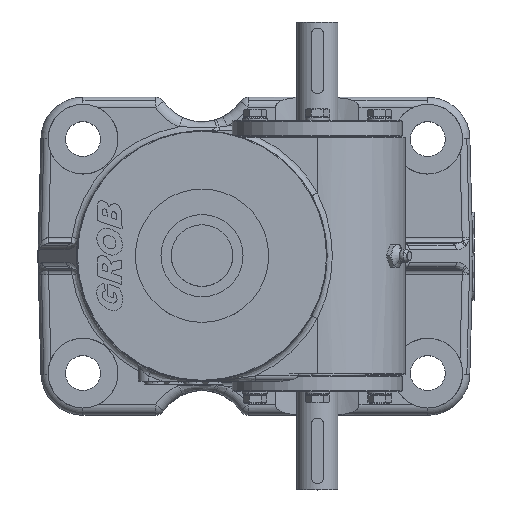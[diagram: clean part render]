
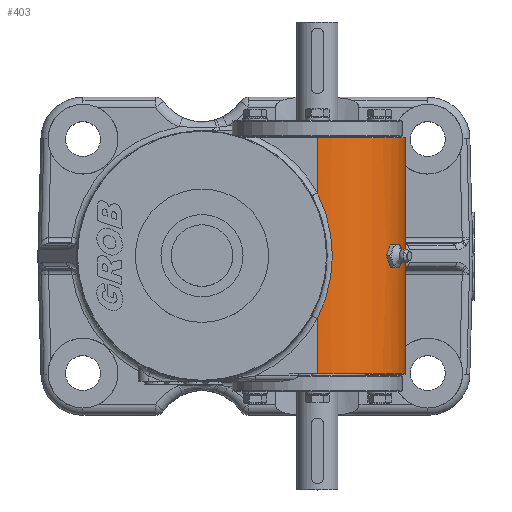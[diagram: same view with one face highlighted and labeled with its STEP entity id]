
A CAD part, top view. The second image highlights one B-rep face of the part: STEP entity #403.
In plain terms, the highlighted cylindrical face has radius 43 mm (diameter 86 mm), a partial arc.
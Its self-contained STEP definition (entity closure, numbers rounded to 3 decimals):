
#403=ADVANCED_FACE('',(#1507,#1508),#1509,.T.);
#1507=FACE_BOUND('',#3326,.T.);
#1508=FACE_OUTER_BOUND('',#3327,.T.);
#1509=CYLINDRICAL_SURFACE('',#3328,43.0);
#3326=EDGE_LOOP('',(#8139,#8140,#8141,#8142,#8143,#8144));
#3327=EDGE_LOOP('',(#8145,#8146,#8147,#8148,#8149,#8150,#8151,#8152,#8153,#8154,#8155,#8156));
#3328=AXIS2_PLACEMENT_3D('',#8157,#8158,#8159);
#8139=ORIENTED_EDGE('',*,*,#12429,.T.);
#8140=ORIENTED_EDGE('',*,*,#12425,.T.);
#8141=ORIENTED_EDGE('',*,*,#12421,.T.);
#8142=ORIENTED_EDGE('',*,*,#12446,.T.);
#8143=ORIENTED_EDGE('',*,*,#12442,.T.);
#8144=ORIENTED_EDGE('',*,*,#12445,.T.);
#8145=ORIENTED_EDGE('',*,*,#12486,.F.);
#8146=ORIENTED_EDGE('',*,*,#12487,.T.);
#8147=ORIENTED_EDGE('',*,*,#12474,.T.);
#8148=ORIENTED_EDGE('',*,*,#12488,.T.);
#8149=ORIENTED_EDGE('',*,*,#12489,.F.);
#8150=ORIENTED_EDGE('',*,*,#12490,.F.);
#8151=ORIENTED_EDGE('',*,*,#11635,.F.);
#8152=ORIENTED_EDGE('',*,*,#12491,.F.);
#8153=ORIENTED_EDGE('',*,*,#12492,.F.);
#8154=ORIENTED_EDGE('',*,*,#12493,.T.);
#8155=ORIENTED_EDGE('',*,*,#12481,.T.);
#8156=ORIENTED_EDGE('',*,*,#12494,.T.);
#8157=CARTESIAN_POINT('',(56.184,0.,61.5));
#8158=DIRECTION('',(0.,-1.0,0.));
#8159=DIRECTION('',(0.,0.,1.0));
#11635=EDGE_CURVE('',#13756,#13758,#13759,.T.);
#12421=EDGE_CURVE('',#15117,#15118,#15119,.T.);
#12425=EDGE_CURVE('',#15124,#15117,#15125,.T.);
#12429=EDGE_CURVE('',#15130,#15124,#15131,.T.);
#12442=EDGE_CURVE('',#15149,#15150,#15151,.T.);
#12445=EDGE_CURVE('',#15150,#15130,#15154,.T.);
#12446=EDGE_CURVE('',#15118,#15149,#15155,.T.);
#12474=EDGE_CURVE('',#15191,#15188,#15192,.T.);
#12481=EDGE_CURVE('',#15202,#15200,#15203,.T.);
#12486=EDGE_CURVE('',#15210,#15211,#15212,.T.);
#12487=EDGE_CURVE('',#15210,#15191,#15213,.T.);
#12488=EDGE_CURVE('',#15188,#15214,#15215,.T.);
#12489=EDGE_CURVE('',#15216,#15214,#15217,.T.);
#12490=EDGE_CURVE('',#13758,#15216,#15218,.T.);
#12491=EDGE_CURVE('',#15219,#13756,#15220,.T.);
#12492=EDGE_CURVE('',#15221,#15219,#15222,.T.);
#12493=EDGE_CURVE('',#15221,#15202,#15223,.T.);
#12494=EDGE_CURVE('',#15200,#15211,#15224,.T.);
#13756=VERTEX_POINT('',#17123);
#13758=VERTEX_POINT('',#17125);
#13759=LINE('',#17126,#17127);
#15117=VERTEX_POINT('',#19681);
#15118=VERTEX_POINT('',#19682);
#15119=CIRCLE('',#19683,43.0);
#15124=VERTEX_POINT('',#19699);
#15125=ELLIPSE('',#19700,86.,43.0);
#15130=VERTEX_POINT('',#19724);
#15131=ELLIPSE('',#19725,86.,43.0);
#15149=VERTEX_POINT('',#19807);
#15150=VERTEX_POINT('',#19808);
#15151=ELLIPSE('',#19809,86.,43.0);
#15154=CIRCLE('',#19814,43.0);
#15155=ELLIPSE('',#19815,86.,43.0);
#15188=VERTEX_POINT('',#19851);
#15191=VERTEX_POINT('',#19854);
#15192=CIRCLE('',#19855,43.0);
#15200=VERTEX_POINT('',#19877);
#15202=VERTEX_POINT('',#19880);
#15203=CIRCLE('',#19881,43.0);
#15210=VERTEX_POINT('',#19896);
#15211=VERTEX_POINT('',#19897);
#15212=B_SPLINE_CURVE_WITH_KNOTS('',3,(#19898,#19899,#19900,#19901,#19902,#19903,#19904,#19905,#19906,#19907),.UNSPECIFIED.,.F.,.F.,(4,1,1,1,1,1,1,4),(0.,0.909,1.818,2.727,3.636,4.546,5.,6.364),.UNSPECIFIED.);
#15213=LINE('',#19908,#19909);
#15214=VERTEX_POINT('',#19910);
#15215=LINE('',#19911,#19912);
#15216=VERTEX_POINT('',#19913);
#15217=CIRCLE('',#19914,43.0);
#15218=B_SPLINE_CURVE_WITH_KNOTS('',3,(#19915,#19916,#19917,#19918,#19919,#19920,#19921,#19922,#19923,#19924,#19925),.UNSPECIFIED.,.F.,.F.,(4,1,1,1,1,1,2,4),(-0.661,-0.529,-0.265,-0.198,-0.132,-0.066,0.0,0.001),.UNSPECIFIED.);
#15219=VERTEX_POINT('',#19926);
#15220=B_SPLINE_CURVE_WITH_KNOTS('',3,(#19927,#19928,#19929,#19930,#19931,#19932,#19933,#19934,#19935,#19936,#19937,#19938,#19939),.UNSPECIFIED.,.F.,.F.,(4,2,1,1,1,1,1,1,1,4),(-0.662,-0.661,-0.595,-0.529,-0.463,-0.397,-0.331,-0.265,-0.132,0.),.UNSPECIFIED.);
#15221=VERTEX_POINT('',#19940);
#15222=CIRCLE('',#19941,43.0);
#15223=LINE('',#19942,#19943);
#15224=LINE('',#19944,#19945);
#17123=CARTESIAN_POINT('',(97.865,3.835,50.932));
#17125=CARTESIAN_POINT('',(97.865,-3.835,50.932));
#17126=CARTESIAN_POINT('',(97.865,3.835,50.932));
#17127=VECTOR('',#22468,0.767);
#19681=CARTESIAN_POINT('',(91.734,5.5,85.691));
#19682=CARTESIAN_POINT('',(94.909,5.5,80.191));
#19683=AXIS2_PLACEMENT_3D('',#23923,#23924,#23925);
#19699=CARTESIAN_POINT('',(89.839,0.,88.264));
#19700=AXIS2_PLACEMENT_3D('',#23928,#23929,#23930);
#19724=CARTESIAN_POINT('',(91.734,-5.5,85.691));
#19725=AXIS2_PLACEMENT_3D('',#23932,#23933,#23934);
#19807=CARTESIAN_POINT('',(96.19,0.,77.264));
#19808=CARTESIAN_POINT('',(94.909,-5.5,80.191));
#19809=AXIS2_PLACEMENT_3D('',#23948,#23949,#23950);
#19814=AXIS2_PLACEMENT_3D('',#23953,#23954,#23955);
#19815=AXIS2_PLACEMENT_3D('',#23956,#23957,#23958);
#19851=CARTESIAN_POINT('',(81.864,-57.5,27.01));
#19854=CARTESIAN_POINT('',(56.184,-57.5,104.5));
#19855=AXIS2_PLACEMENT_3D('',#24034,#24035,#24036);
#19877=CARTESIAN_POINT('',(56.184,57.5,104.5));
#19880=CARTESIAN_POINT('',(81.864,57.5,27.01));
#19881=AXIS2_PLACEMENT_3D('',#24044,#24045,#24046);
#19896=CARTESIAN_POINT('',(56.184,-30.649,104.5));
#19897=CARTESIAN_POINT('',(56.184,30.649,104.5));
#19898=CARTESIAN_POINT('',(56.184,-30.649,104.5));
#19899=CARTESIAN_POINT('',(57.541,-27.989,104.5));
#19900=CARTESIAN_POINT('',(59.916,-22.432,104.372));
#19901=CARTESIAN_POINT('',(62.33,-13.603,104.071));
#19902=CARTESIAN_POINT('',(63.54,-4.595,103.866));
#19903=CARTESIAN_POINT('',(63.54,4.605,103.867));
#19904=CARTESIAN_POINT('',(62.526,12.124,104.038));
#19905=CARTESIAN_POINT('',(60.419,20.979,104.313));
#19906=CARTESIAN_POINT('',(58.219,26.658,104.5));
#19907=CARTESIAN_POINT('',(56.184,30.649,104.5));
#19908=CARTESIAN_POINT('',(56.184,-30.649,104.5));
#19909=VECTOR('',#24054,2.685);
#19910=CARTESIAN_POINT('',(81.864,-9.,27.01));
#19911=CARTESIAN_POINT('',(81.864,-57.5,27.01));
#19912=VECTOR('',#24055,4.85);
#19913=CARTESIAN_POINT('',(96.936,-9.,47.778));
#19914=AXIS2_PLACEMENT_3D('',#24056,#24057,#24058);
#19915=CARTESIAN_POINT('',(97.865,-3.835,50.932));
#19916=CARTESIAN_POINT('',(97.865,-4.276,50.932));
#19917=CARTESIAN_POINT('',(97.832,-5.61,50.8));
#19918=CARTESIAN_POINT('',(97.668,-7.048,50.167));
#19919=CARTESIAN_POINT('',(97.429,-8.014,49.336));
#19920=CARTESIAN_POINT('',(97.287,-8.435,48.864));
#19921=CARTESIAN_POINT('',(97.124,-8.776,48.347));
#19922=CARTESIAN_POINT('',(97.003,-8.937,47.977));
#19923=CARTESIAN_POINT('',(96.938,-8.998,47.784));
#19924=CARTESIAN_POINT('',(96.937,-8.999,47.781));
#19925=CARTESIAN_POINT('',(96.936,-9.,47.778));
#19926=CARTESIAN_POINT('',(96.936,9.,47.778));
#19927=CARTESIAN_POINT('',(96.936,9.,47.778));
#19928=CARTESIAN_POINT('',(96.937,8.999,47.781));
#19929=CARTESIAN_POINT('',(96.938,8.998,47.784));
#19930=CARTESIAN_POINT('',(97.003,8.937,47.977));
#19931=CARTESIAN_POINT('',(97.124,8.776,48.347));
#19932=CARTESIAN_POINT('',(97.286,8.436,48.864));
#19933=CARTESIAN_POINT('',(97.429,8.013,49.337));
#19934=CARTESIAN_POINT('',(97.548,7.532,49.75));
#19935=CARTESIAN_POINT('',(97.649,6.995,50.11));
#19936=CARTESIAN_POINT('',(97.756,6.218,50.508));
#19937=CARTESIAN_POINT('',(97.843,5.169,50.842));
#19938=CARTESIAN_POINT('',(97.865,4.276,50.932));
#19939=CARTESIAN_POINT('',(97.865,3.835,50.932));
#19940=CARTESIAN_POINT('',(81.864,9.,27.01));
#19941=AXIS2_PLACEMENT_3D('',#24059,#24060,#24061);
#19942=CARTESIAN_POINT('',(81.864,9.,27.01));
#19943=VECTOR('',#24062,4.85);
#19944=CARTESIAN_POINT('',(56.184,57.5,104.5));
#19945=VECTOR('',#24063,2.685);
#22468=DIRECTION('',(0.,-1.0,0.));
#23923=CARTESIAN_POINT('',(56.184,5.5,61.5));
#23924=DIRECTION('',(0.,1.0,0.));
#23925=DIRECTION('',(0.,0.,1.0));
#23928=CARTESIAN_POINT('',(56.184,11.,61.5));
#23929=DIRECTION('',(-0.433,0.5,0.75));
#23930=DIRECTION('',(-0.25,-0.866,0.433));
#23932=CARTESIAN_POINT('',(56.184,-11.0,61.5));
#23933=DIRECTION('',(-0.433,-0.5,0.75));
#23934=DIRECTION('',(-0.25,0.866,0.433));
#23948=CARTESIAN_POINT('',(56.184,-11.0,61.5));
#23949=DIRECTION('',(0.433,-0.5,-0.75));
#23950=DIRECTION('',(-0.25,-0.866,0.433));
#23953=CARTESIAN_POINT('',(56.184,-5.5,61.5));
#23954=DIRECTION('',(0.,-1.0,0.));
#23955=DIRECTION('',(0.,0.,1.0));
#23956=CARTESIAN_POINT('',(56.184,11.,61.5));
#23957=DIRECTION('',(0.433,0.5,-0.75));
#23958=DIRECTION('',(-0.25,0.866,0.433));
#24034=CARTESIAN_POINT('',(56.184,-57.5,61.5));
#24035=DIRECTION('',(0.,1.0,0.));
#24036=DIRECTION('',(0.,0.,1.0));
#24044=CARTESIAN_POINT('',(56.184,57.5,61.5));
#24045=DIRECTION('',(0.,-1.0,0.));
#24046=DIRECTION('',(0.,0.,1.0));
#24054=DIRECTION('',(0.,-1.0,0.));
#24055=DIRECTION('',(0.,1.0,0.));
#24056=CARTESIAN_POINT('',(56.184,-9.,61.5));
#24057=DIRECTION('',(0.,1.0,0.));
#24058=DIRECTION('',(0.822,0.,-0.57));
#24059=CARTESIAN_POINT('',(56.184,9.,61.5));
#24060=DIRECTION('',(0.,-1.0,0.));
#24061=DIRECTION('',(0.822,0.,-0.57));
#24062=DIRECTION('',(0.,1.0,0.));
#24063=DIRECTION('',(0.,-1.0,0.));
